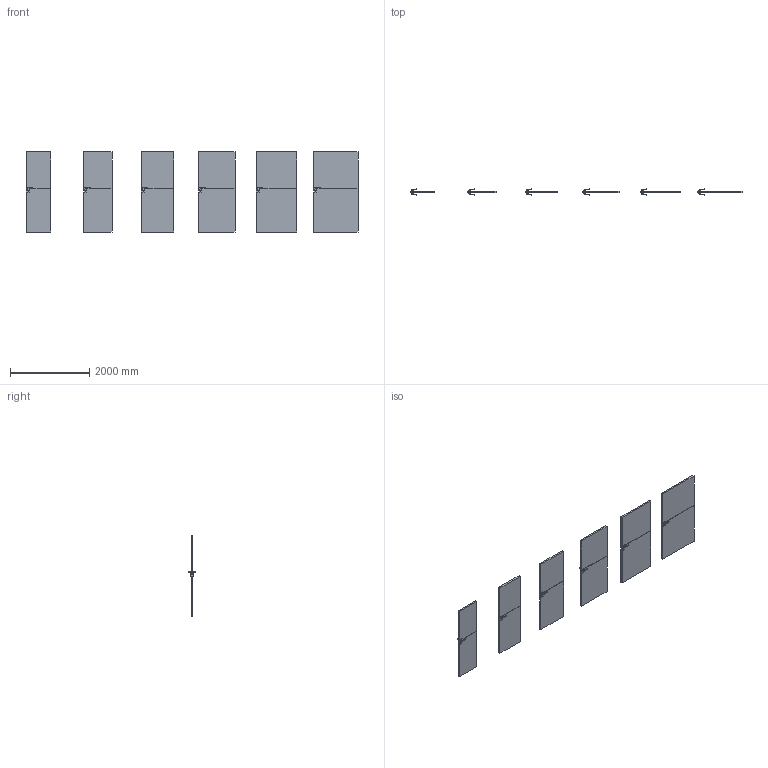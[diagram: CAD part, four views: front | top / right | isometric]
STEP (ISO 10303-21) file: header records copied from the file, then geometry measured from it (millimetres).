
FILE_DESCRIPTION(/* description */ (''),/* implementation_level */ '2;1');
FILE_NAME(/* name */ '049685_A_1-Skrzydło DESIRE model 2_ polska norma _PN__ bezprzylgowe..stp',/* time_stamp */ '2024-02-21T09:08:07+01:00',/* author */ (''),/* organization */ (''),/* preprocessor_version */ 'ST-DEVELOPER v16',/* originating_system */ 'SIEMENS PLM Software NX 11.0',/* authorisation */ '');
FILE_SCHEMA (('AUTOMOTIVE_DESIGN { 1 0 10303 214 3 1 1 1 }'));
Length unit declared in the file: millimetre
Products named in the file (1): bkni25E4B0C072xe
Bounding box: 8368 x 153.27 x 2017 mm (x, y, z)
Volume: 413429244.5 mm3; surface area: 22717534.2 mm2
Topology: 30 solids, 30 shells, 1164 faces, 2736 edges, 1512 vertices
Faces by surface type: plane 456, cylinder 312, bspline 204, sphere 168, cone 12, torus 12
Entity records: 38716 total; most frequent: CARTESIAN_POINT 13849, ORIENTED_EDGE 5136, DIRECTION 4994, EDGE_CURVE 2568, AXIS2_PLACEMENT_3D 1825, VERTEX_POINT 1512, LINE 1344, VECTOR 1344
